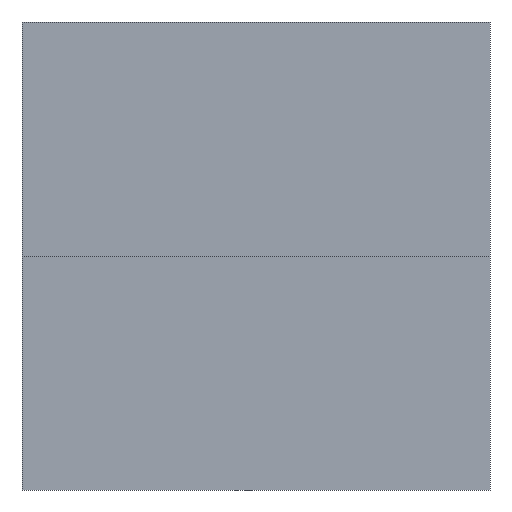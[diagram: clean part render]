
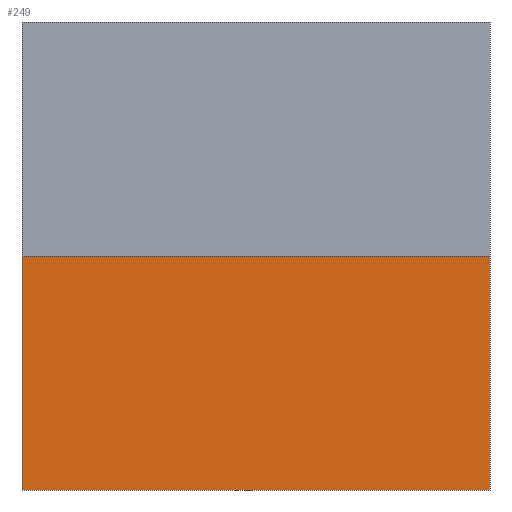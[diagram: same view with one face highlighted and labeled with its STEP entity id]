
A CAD part, front view. The second image highlights one B-rep face of the part: STEP entity #249.
In plain terms, the highlighted planar face has unit normal (0, -1, 0).
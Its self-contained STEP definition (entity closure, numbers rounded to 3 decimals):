
#21 = EDGE_CURVE('',#22,#24,#26,.T.);
#22 = VERTEX_POINT('',#23);
#23 = CARTESIAN_POINT('',(0.,0.,0.));
#24 = VERTEX_POINT('',#25);
#25 = CARTESIAN_POINT('',(0.,0.,25.));
#26 = SURFACE_CURVE('',#27,(#31,#43),.PCURVE_S1.);
#27 = LINE('',#28,#29);
#28 = CARTESIAN_POINT('',(0.,0.,0.));
#29 = VECTOR('',#30,1.);
#30 = DIRECTION('',(0.,0.,1.));
#31 = PCURVE('',#32,#37);
#32 = PLANE('',#33);
#33 = AXIS2_PLACEMENT_3D('',#34,#35,#36);
#34 = CARTESIAN_POINT('',(0.,0.,0.));
#35 = DIRECTION('',(1.,0.,0.));
#36 = DIRECTION('',(0.,0.,1.));
#37 = DEFINITIONAL_REPRESENTATION('',(#38),#42);
#38 = LINE('',#39,#40);
#39 = CARTESIAN_POINT('',(0.,0.));
#40 = VECTOR('',#41,1.);
#41 = DIRECTION('',(1.,0.));
#42 = ( GEOMETRIC_REPRESENTATION_CONTEXT(2) 
PARAMETRIC_REPRESENTATION_CONTEXT() REPRESENTATION_CONTEXT('2D SPACE',''
  ) );
#43 = PCURVE('',#44,#49);
#44 = PLANE('',#45);
#45 = AXIS2_PLACEMENT_3D('',#46,#47,#48);
#46 = CARTESIAN_POINT('',(0.,0.,0.));
#47 = DIRECTION('',(0.,1.,0.));
#48 = DIRECTION('',(0.,0.,1.));
#49 = DEFINITIONAL_REPRESENTATION('',(#50),#54);
#50 = LINE('',#51,#52);
#51 = CARTESIAN_POINT('',(0.,0.));
#52 = VECTOR('',#53,1.);
#53 = DIRECTION('',(1.,0.));
#54 = ( GEOMETRIC_REPRESENTATION_CONTEXT(2) 
PARAMETRIC_REPRESENTATION_CONTEXT() REPRESENTATION_CONTEXT('2D SPACE',''
  ) );
#72 = PLANE('',#73);
#73 = AXIS2_PLACEMENT_3D('',#74,#75,#76);
#74 = CARTESIAN_POINT('',(0.,0.,0.));
#75 = DIRECTION('',(0.,0.,1.));
#76 = DIRECTION('',(1.,0.,0.));
#238 = PLANE('',#239);
#239 = AXIS2_PLACEMENT_3D('',#240,#241,#242);
#240 = CARTESIAN_POINT('',(0.,0.,25.));
#241 = DIRECTION('',(0.,0.,1.));
#242 = DIRECTION('',(1.,0.,0.));
#249 = ADVANCED_FACE('',(#250),#44,.F.);
#250 = FACE_BOUND('',#251,.F.);
#251 = EDGE_LOOP('',(#252,#282,#303,#304));
#252 = ORIENTED_EDGE('',*,*,#253,.F.);
#253 = EDGE_CURVE('',#254,#256,#258,.T.);
#254 = VERTEX_POINT('',#255);
#255 = CARTESIAN_POINT('',(50.,0.,0.));
#256 = VERTEX_POINT('',#257);
#257 = CARTESIAN_POINT('',(50.,0.,25.));
#258 = SURFACE_CURVE('',#259,(#263,#270),.PCURVE_S1.);
#259 = LINE('',#260,#261);
#260 = CARTESIAN_POINT('',(50.,0.,0.));
#261 = VECTOR('',#262,1.);
#262 = DIRECTION('',(0.,0.,1.));
#263 = PCURVE('',#44,#264);
#264 = DEFINITIONAL_REPRESENTATION('',(#265),#269);
#265 = LINE('',#266,#267);
#266 = CARTESIAN_POINT('',(0.,50.));
#267 = VECTOR('',#268,1.);
#268 = DIRECTION('',(1.,0.));
#269 = ( GEOMETRIC_REPRESENTATION_CONTEXT(2) 
PARAMETRIC_REPRESENTATION_CONTEXT() REPRESENTATION_CONTEXT('2D SPACE',''
  ) );
#270 = PCURVE('',#271,#276);
#271 = PLANE('',#272);
#272 = AXIS2_PLACEMENT_3D('',#273,#274,#275);
#273 = CARTESIAN_POINT('',(50.,0.,0.));
#274 = DIRECTION('',(1.,0.,0.));
#275 = DIRECTION('',(0.,0.,1.));
#276 = DEFINITIONAL_REPRESENTATION('',(#277),#281);
#277 = LINE('',#278,#279);
#278 = CARTESIAN_POINT('',(0.,0.));
#279 = VECTOR('',#280,1.);
#280 = DIRECTION('',(1.,0.));
#281 = ( GEOMETRIC_REPRESENTATION_CONTEXT(2) 
PARAMETRIC_REPRESENTATION_CONTEXT() REPRESENTATION_CONTEXT('2D SPACE',''
  ) );
#282 = ORIENTED_EDGE('',*,*,#283,.F.);
#283 = EDGE_CURVE('',#22,#254,#284,.T.);
#284 = SURFACE_CURVE('',#285,(#289,#296),.PCURVE_S1.);
#285 = LINE('',#286,#287);
#286 = CARTESIAN_POINT('',(0.,0.,0.));
#287 = VECTOR('',#288,1.);
#288 = DIRECTION('',(1.,0.,0.));
#289 = PCURVE('',#44,#290);
#290 = DEFINITIONAL_REPRESENTATION('',(#291),#295);
#291 = LINE('',#292,#293);
#292 = CARTESIAN_POINT('',(0.,0.));
#293 = VECTOR('',#294,1.);
#294 = DIRECTION('',(0.,1.));
#295 = ( GEOMETRIC_REPRESENTATION_CONTEXT(2) 
PARAMETRIC_REPRESENTATION_CONTEXT() REPRESENTATION_CONTEXT('2D SPACE',''
  ) );
#296 = PCURVE('',#72,#297);
#297 = DEFINITIONAL_REPRESENTATION('',(#298),#302);
#298 = LINE('',#299,#300);
#299 = CARTESIAN_POINT('',(0.,0.));
#300 = VECTOR('',#301,1.);
#301 = DIRECTION('',(1.,0.));
#302 = ( GEOMETRIC_REPRESENTATION_CONTEXT(2) 
PARAMETRIC_REPRESENTATION_CONTEXT() REPRESENTATION_CONTEXT('2D SPACE',''
  ) );
#303 = ORIENTED_EDGE('',*,*,#21,.T.);
#304 = ORIENTED_EDGE('',*,*,#305,.T.);
#305 = EDGE_CURVE('',#24,#256,#306,.T.);
#306 = SURFACE_CURVE('',#307,(#311,#318),.PCURVE_S1.);
#307 = LINE('',#308,#309);
#308 = CARTESIAN_POINT('',(0.,0.,25.));
#309 = VECTOR('',#310,1.);
#310 = DIRECTION('',(1.,0.,0.));
#311 = PCURVE('',#44,#312);
#312 = DEFINITIONAL_REPRESENTATION('',(#313),#317);
#313 = LINE('',#314,#315);
#314 = CARTESIAN_POINT('',(25.,0.));
#315 = VECTOR('',#316,1.);
#316 = DIRECTION('',(0.,1.));
#317 = ( GEOMETRIC_REPRESENTATION_CONTEXT(2) 
PARAMETRIC_REPRESENTATION_CONTEXT() REPRESENTATION_CONTEXT('2D SPACE',''
  ) );
#318 = PCURVE('',#238,#319);
#319 = DEFINITIONAL_REPRESENTATION('',(#320),#324);
#320 = LINE('',#321,#322);
#321 = CARTESIAN_POINT('',(0.,0.));
#322 = VECTOR('',#323,1.);
#323 = DIRECTION('',(1.,0.));
#324 = ( GEOMETRIC_REPRESENTATION_CONTEXT(2) 
PARAMETRIC_REPRESENTATION_CONTEXT() REPRESENTATION_CONTEXT('2D SPACE',''
  ) );
